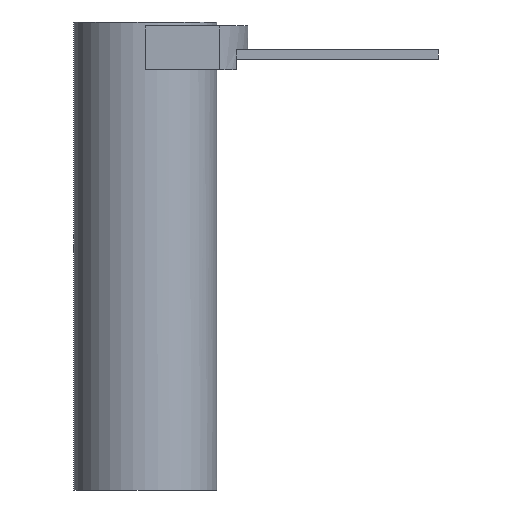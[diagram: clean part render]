
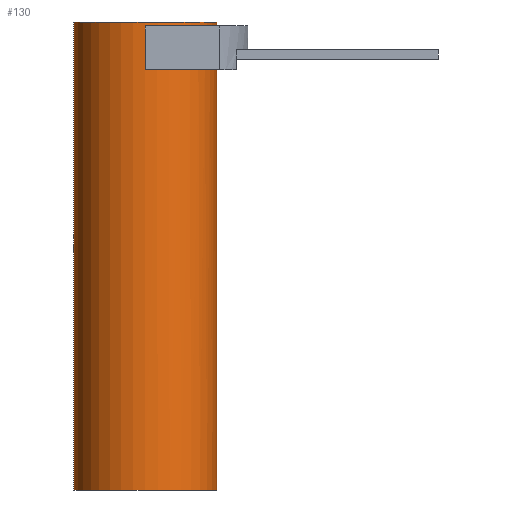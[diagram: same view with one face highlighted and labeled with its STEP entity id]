
A CAD part, front view. The second image highlights one B-rep face of the part: STEP entity #130.
In plain terms, the highlighted cylindrical face has radius 9 mm (diameter 18 mm), a partial arc.
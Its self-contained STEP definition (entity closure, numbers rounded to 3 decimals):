
#113=CYLINDRICAL_SURFACE('',#597,9.);
#130=ADVANCED_FACE('',(#175),#113,.T.);
#175=FACE_OUTER_BOUND('',#198,.T.);
#198=EDGE_LOOP('',(#301,#302,#303,#304,#305,#306,#307,#308,#309,#310));
#224=CIRCLE('',#577,9.);
#225=CIRCLE('',#580,9.);
#230=CIRCLE('',#590,9.);
#233=CIRCLE('',#595,9.);
#234=CIRCLE('',#596,9.);
#301=ORIENTED_EDGE('',*,*,#452,.F.);
#302=ORIENTED_EDGE('',*,*,#457,.F.);
#303=ORIENTED_EDGE('',*,*,#458,.T.);
#304=ORIENTED_EDGE('',*,*,#455,.T.);
#305=ORIENTED_EDGE('',*,*,#459,.F.);
#306=ORIENTED_EDGE('',*,*,#453,.F.);
#307=ORIENTED_EDGE('',*,*,#438,.F.);
#308=ORIENTED_EDGE('',*,*,#435,.F.);
#309=ORIENTED_EDGE('',*,*,#434,.F.);
#310=ORIENTED_EDGE('',*,*,#448,.F.);
#388=VERTEX_POINT('',#794);
#390=VERTEX_POINT('',#798);
#391=VERTEX_POINT('',#802);
#393=VERTEX_POINT('',#808);
#398=VERTEX_POINT('',#825);
#400=VERTEX_POINT('',#833);
#401=VERTEX_POINT('',#837);
#402=VERTEX_POINT('',#839);
#403=VERTEX_POINT('',#841);
#404=VERTEX_POINT('',#843);
#434=EDGE_CURVE('',#390,#388,#224,.T.);
#435=EDGE_CURVE('',#388,#391,#498,.T.);
#438=EDGE_CURVE('',#391,#393,#225,.T.);
#448=EDGE_CURVE('',#398,#390,#508,.T.);
#452=EDGE_CURVE('',#400,#398,#230,.T.);
#453=EDGE_CURVE('',#393,#401,#510,.T.);
#455=EDGE_CURVE('',#403,#402,#511,.T.);
#457=EDGE_CURVE('',#404,#400,#512,.T.);
#458=EDGE_CURVE('',#404,#403,#233,.T.);
#459=EDGE_CURVE('',#401,#402,#234,.T.);
#498=LINE('',#801,#537);
#508=LINE('',#827,#547);
#510=LINE('',#836,#549);
#511=LINE('',#840,#550);
#512=LINE('',#844,#551);
#537=VECTOR('',#647,1.);
#547=VECTOR('',#671,1.);
#549=VECTOR('',#685,1.);
#550=VECTOR('',#688,1.);
#551=VECTOR('',#691,1.);
#577=AXIS2_PLACEMENT_3D('',#799,#643,#644);
#580=AXIS2_PLACEMENT_3D('',#807,#652,#653);
#590=AXIS2_PLACEMENT_3D('',#834,#681,#682);
#595=AXIS2_PLACEMENT_3D('',#846,#694,#695);
#596=AXIS2_PLACEMENT_3D('',#847,#696,#697);
#597=AXIS2_PLACEMENT_3D('',#848,#698,#699);
#643=DIRECTION('',(0.,0.,1.));
#644=DIRECTION('',(-1.,0.,0.));
#647=DIRECTION('',(0.,0.,1.));
#652=DIRECTION('',(0.,0.,1.));
#653=DIRECTION('',(0.565,-0.825,0.));
#671=DIRECTION('',(0.,0.,-1.));
#681=DIRECTION('',(0.,0.,-1.));
#682=DIRECTION('',(-1.,0.,0.));
#685=DIRECTION('',(0.,0.,-1.));
#688=DIRECTION('',(0.,0.,-1.));
#691=DIRECTION('',(0.,0.,-1.));
#694=DIRECTION('',(0.,0.,-1.));
#695=DIRECTION('',(0.,1.,0.));
#696=DIRECTION('',(0.,0.,-1.));
#697=DIRECTION('',(0.,1.,0.));
#698=DIRECTION('',(0.,0.,-1.));
#699=DIRECTION('',(0.,-1.,0.));
#794=CARTESIAN_POINT('',(6.708,-6.,53.));
#798=CARTESIAN_POINT('',(0.,-9.,53.));
#799=CARTESIAN_POINT('',(0.,0.,53.));
#801=CARTESIAN_POINT('',(6.708,-6.,52.98));
#802=CARTESIAN_POINT('',(6.708,-6.,55.5));
#807=CARTESIAN_POINT('',(0.,0.,55.5));
#808=CARTESIAN_POINT('',(9.,0.,55.5));
#825=CARTESIAN_POINT('',(0.,-9.,58.5));
#827=CARTESIAN_POINT('',(0.,-9.,59.02));
#833=CARTESIAN_POINT('',(9.,0.,58.5));
#834=CARTESIAN_POINT('',(0.,0.,58.5));
#836=CARTESIAN_POINT('',(9.,0.,0.));
#837=CARTESIAN_POINT('',(9.,0.,0.));
#839=CARTESIAN_POINT('',(-9.,0.,0.));
#840=CARTESIAN_POINT('',(-9.,0.,0.));
#841=CARTESIAN_POINT('',(-9.,0.,59.));
#843=CARTESIAN_POINT('',(9.,0.,59.));
#844=CARTESIAN_POINT('',(9.,0.,0.));
#846=CARTESIAN_POINT('',(0.,0.,59.));
#847=CARTESIAN_POINT('',(0.,0.,0.));
#848=CARTESIAN_POINT('',(0.,0.,59.));
